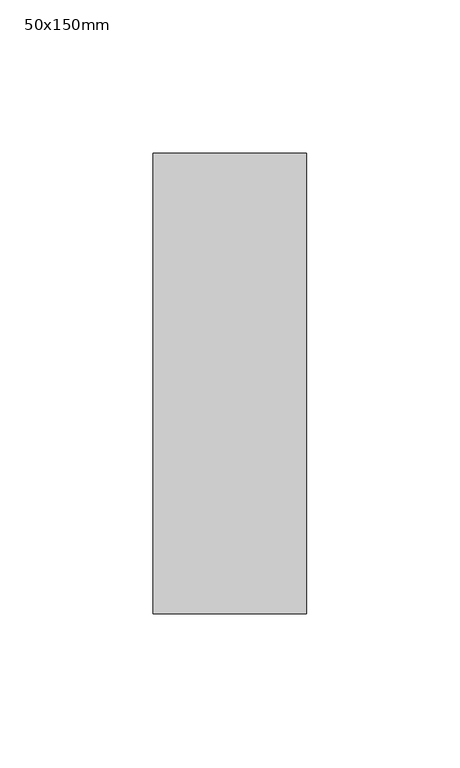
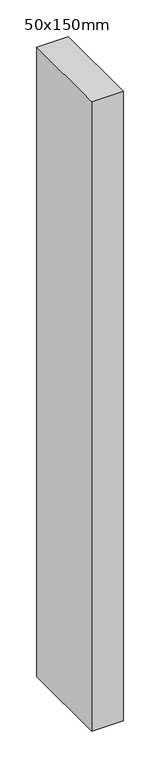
"""IFC4 building model written with IfcOpenShell, lengths in millimetres: member geometry, 長方形マリオン : 50x150mm."""

import ifcopenshell
import ifcopenshell.guid

model = None  # the IFC model being written
_history = None  # IfcOwnerHistory: only IFC2X3 demands one
_inside = {}  # id of a spatial element -> (the spatial element, [elements in it])
_under = {}  # id of a project, library or spatial element -> (it, [spatial elements below it])
_declared = {}  # id of a project -> (the project, [libraries it declares])
_typed = {}  # id of a type object -> (the type object, [elements of that type])
_made_of = {}  # id of a material, layer set ... -> (it, [elements and type objects made of it])


def new_model(schema):
    """Start an empty IFC model of exactly this schema.

    Asked for "IFC4X3", IfcOpenShell would pick the latest addendum, in which some entities
    have other attributes; the version numbers below select the first issue.
    IFC2X3 requires an IfcOwnerHistory on every rooted entity: one is made here for all.
    """
    global model, _history
    if schema == "IFC4X3":
        model = ifcopenshell.file(schema_version=(4, 3, 0, 0))
    else:
        model = ifcopenshell.file(schema=schema)
    _inside.clear()
    _under.clear()
    _declared.clear()
    _typed.clear()
    _made_of.clear()
    _history = None
    if model.schema == "IFC2X3":
        org = make("IfcOrganization", Name="unknown")
        user = make(
            "IfcPersonAndOrganization",
            ThePerson=make("IfcPerson", FamilyName="unknown"),
            TheOrganization=org,
        )
        app = make(
            "IfcApplication",
            ApplicationDeveloper=org,
            Version="unknown",
            ApplicationFullName="unknown",
            ApplicationIdentifier="unknown",
        )
        _history = make(
            "IfcOwnerHistory",
            OwningUser=user,
            OwningApplication=app,
            ChangeAction="ADDED",
            CreationDate=0,
        )
    return model


def make(cls, **values):
    """One entity of the class cls with the attributes given. An attribute that is None is left unset."""
    return model.create_entity(
        cls, **{name: value for name, value in values.items() if value is not None}
    )


def rooted(cls, **values):
    """An entity with a GlobalId (a new one), such as an element, a storey or a relation."""
    return make(cls, GlobalId=ifcopenshell.guid.new(), OwnerHistory=_history, **values)


def si_unit(unit_type, name, prefix=None):
    """IfcSIUnit, for example si_unit("LENGTHUNIT", "METRE", prefix="MILLI")."""
    return make("IfcSIUnit", UnitType=unit_type, Prefix=prefix, Name=name)


def assignment(units):
    """IfcUnitAssignment: the units of a project."""
    return None if units is None else make("IfcUnitAssignment", Units=units)


def point(xyz):
    """IfcCartesianPoint."""
    return None if xyz is None else make("IfcCartesianPoint", Coordinates=xyz)


def direction(xyz):
    """IfcDirection."""
    return None if xyz is None else make("IfcDirection", DirectionRatios=xyz)


def frame(location, z_axis=None, x_axis=None):
    """IfcAxis2Placement3D, a coordinate frame: its origin and axes. An axis left out is left unset."""
    return make(
        "IfcAxis2Placement3D",
        Location=point(location),
        Axis=direction(z_axis),
        RefDirection=direction(x_axis),
    )


def origin():
    """The frame at (0, 0, 0) with its axes left unset."""
    return frame((0.0, 0.0, 0.0))


def place(relative_to, where):
    """IfcLocalPlacement: puts the frame where relative to a parent placement (None: the world)."""
    return make(
        "IfcLocalPlacement", PlacementRelTo=relative_to, RelativePlacement=where
    )


def context(
    kind, dimensions, precision=None, world=None, true_north=None, identifier=None
):
    """IfcGeometricRepresentationContext, for example the 3D "Model" context."""
    return make(
        "IfcGeometricRepresentationContext",
        ContextIdentifier=identifier,
        ContextType=kind,
        CoordinateSpaceDimension=dimensions,
        Precision=precision,
        WorldCoordinateSystem=world,
        TrueNorth=true_north,
    )


def project(units=None, contexts=None):
    """IfcProject with its units and contexts."""
    return rooted(
        "IfcProject",
        Name="project",
        RepresentationContexts=contexts,
        UnitsInContext=assignment(units),
    )


def spatial(cls, under=None, at=None, **own):
    """A site, building, storey or space (cls), placed at a placement, below another one or the project."""
    s = rooted(cls, ObjectPlacement=at, **own)
    if under is not None:
        _under.setdefault(under.id(), (under, []))[1].append(s)
    return s


def polyline(points):
    """IfcPolyline through the points."""
    return make("IfcPolyline", Points=[point(p) for p in points])


def outline(outer, holes=None, kind="AREA"):
    """IfcArbitraryClosedProfileDef: a profile drawn as a closed curve; with holes, ...WithVoids."""
    if holes is None:
        return make("IfcArbitraryClosedProfileDef", ProfileType=kind, OuterCurve=outer)
    return make(
        "IfcArbitraryProfileDefWithVoids",
        ProfileType=kind,
        OuterCurve=outer,
        InnerCurves=holes,
    )


def extrude(swept, where, along, depth):
    """IfcExtrudedAreaSolid: the profile swept, set in the frame where, extruded along a direction by depth."""
    return make(
        "IfcExtrudedAreaSolid",
        SweptArea=swept,
        Position=where,
        ExtrudedDirection=direction(along),
        Depth=depth,
    )


def shape(context_of_items, identifier, shape_type, items):
    """IfcShapeRepresentation: the items that make up one representation, for example the "Body"."""
    return make(
        "IfcShapeRepresentation",
        ContextOfItems=context_of_items,
        RepresentationIdentifier=identifier,
        RepresentationType=shape_type,
        Items=items,
    )


def source(mapping_origin, context_of_items, identifier, shape_type, items):
    """IfcRepresentationMap: a shape defined once, which mapped items show again and again."""
    return make(
        "IfcRepresentationMap",
        MappingOrigin=mapping_origin,
        MappedRepresentation=shape(context_of_items, identifier, shape_type, items),
    )


def transform(
    local_origin,
    x_axis=None,
    y_axis=None,
    z_axis=None,
    scale=None,
    scale2=None,
    scale3=None,
    uniform=True,
):
    """IfcCartesianTransformationOperator3D, or its non-uniform kind. x_axis, y_axis, z_axis: its Axis1, 2, 3."""
    if uniform:
        return make(
            "IfcCartesianTransformationOperator3D",
            Axis1=direction(x_axis),
            Axis2=direction(y_axis),
            LocalOrigin=point(local_origin),
            Scale=scale,
            Axis3=direction(z_axis),
        )
    return make(
        "IfcCartesianTransformationOperator3DnonUniform",
        Axis1=direction(x_axis),
        Axis2=direction(y_axis),
        LocalOrigin=point(local_origin),
        Scale=scale,
        Axis3=direction(z_axis),
        Scale2=scale2,
        Scale3=scale3,
    )


def mapped(mapping_source, mapping_target):
    """IfcMappedItem: shows the shape of a source again, moved by a transform."""
    return make(
        "IfcMappedItem", MappingSource=mapping_source, MappingTarget=mapping_target
    )


def made_of(thing, what):
    """Note that an element or type object is made of a material, layer set ...; save() writes the relation."""
    if what is not None:
        _made_of.setdefault(what.id(), (what, []))[1].append(thing)
    return thing


def element(
    cls,
    number,
    at=None,
    inside=None,
    cuts=None,
    type_object=None,
    material=None,
    context=None,
    identifier="Body",
    shape_type=None,
    held_by="IfcProductDefinitionShape",
    body=None,
    shapes=None,
    **own,
):
    """One element of the class cls, such as IfcWall. Its Tag is "e" and its number.

    at: its placement. inside: the storey or other place that contains it. cuts: it is an
    opening in that element (IfcRelVoidsElement). A single representation is given by context,
    identifier, shape_type and body (its items); several are given by shapes. held_by: the class
    of the entity that holds the representations. save() writes the other relations.
    """
    e = rooted(cls, Tag="e%d" % number, ObjectPlacement=at, **own)
    if body is not None:
        shapes = [shape(context, identifier, shape_type, body)]
    if shapes is not None:
        e.Representation = make(held_by, Representations=shapes)
    if inside is not None:
        _inside.setdefault(inside.id(), (inside, []))[1].append(e)
    if cuts is not None:
        rooted(
            "IfcRelVoidsElement", RelatingBuildingElement=cuts, RelatedOpeningElement=e
        )
    if type_object is not None:
        _typed.setdefault(type_object.id(), (type_object, []))[1].append(e)
    return made_of(e, material)


def aggregate(whole, parts):
    """IfcRelAggregates: a whole, such as a stair, and the parts it consists of."""
    return rooted("IfcRelAggregates", RelatingObject=whole, RelatedObjects=parts)


def save(model, path):
    """Write the relations noted so far, then the file.

    IfcRelAggregates (storeys below a building ...), IfcRelContainedInSpatialStructure (elements
    in a storey), IfcRelDefinesByType, IfcRelAssociatesMaterial and IfcRelDeclares: one each for
    every whole, place, type object, material and project.
    """
    for whole, parts in _under.values():
        aggregate(whole, parts)
    for where, things in _inside.values():
        rooted(
            "IfcRelContainedInSpatialStructure",
            RelatedElements=things,
            RelatingStructure=where,
        )
    for kind, things in _typed.values():
        rooted("IfcRelDefinesByType", RelatedObjects=things, RelatingType=kind)
    for what, things in _made_of.values():
        rooted("IfcRelAssociatesMaterial", RelatedObjects=things, RelatingMaterial=what)
    for by, libraries in _declared.values():
        rooted("IfcRelDeclares", RelatingContext=by, RelatedDefinitions=libraries)
    model.write(path)


def member_50x150mm_a9c68ae1(model_context):
    return source(origin(), model_context, "Body", "SweptSolid", [
        extrude(outline(polyline([(25.0, 75.0), (25.0, -75.0), (-25.0, -75.0), (-25.0, 75.0), (25.0, 75.0)])), frame((0.0, 0.0, -1050.0), z_axis=(0.0, 0.0, 1.0), x_axis=(1.0, 0.0, 0.0)), (0.0, 0.0, 1.0), 1050.0),
    ])


if __name__ == "__main__":
    model = new_model("IFC4")
    model_context = context("Model", 3, world=origin())
    ifc_project = project(units=[si_unit("LENGTHUNIT", "METRE", prefix="MILLI")], contexts=[model_context])
    site = spatial("IfcSite", under=ifc_project)
    building = spatial("IfcBuilding", under=site)
    placement = place(None, origin())
    member_50x150mm_shape = member_50x150mm_a9c68ae1(model_context)
    element("IfcMember", 1, ObjectType="長方形マリオン : 50x150mm", at=placement, inside=building, context=model_context, shape_type="MappedRepresentation", body=[
        mapped(member_50x150mm_shape, transform((0.0, 0.0, 0.0), x_axis=(1.0, 0.0, 0.0), y_axis=(0.0, 1.0, 0.0), z_axis=(0.0, 0.0, 1.0))),
    ])
    save(model, "model.ifc")
